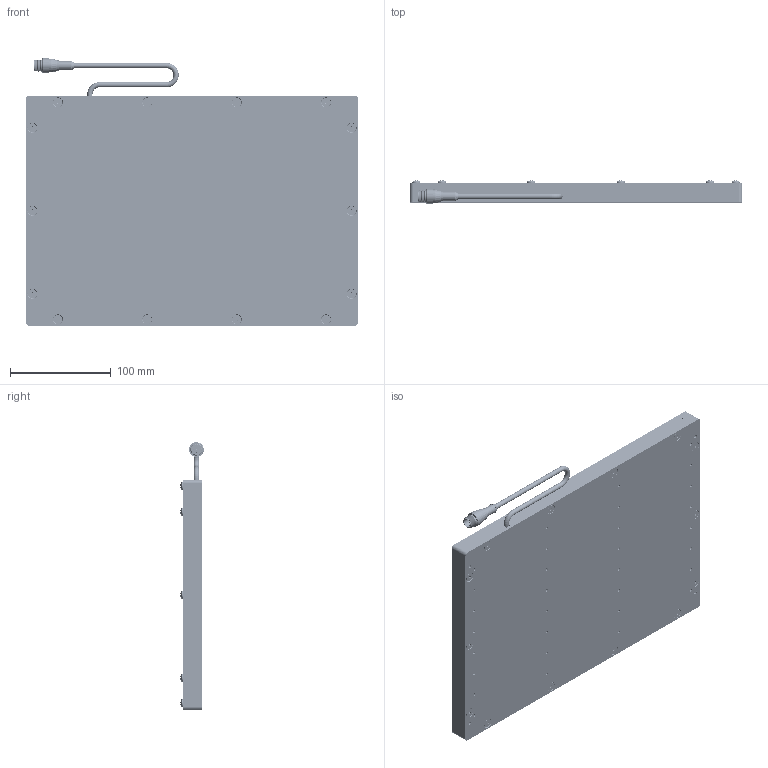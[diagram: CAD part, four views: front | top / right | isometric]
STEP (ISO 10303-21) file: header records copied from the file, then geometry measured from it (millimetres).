
FILE_DESCRIPTION (( 'STEP AP214' ), '1' );
FILE_NAME ('SBL812-XXX.STEP', '2026-04-17T19:25:17', ( '' ), ( '' ), 'SwSTEP 2.0', 'SolidWorks 2025', '' );
FILE_SCHEMA (( 'AUTOMOTIVE_DESIGN' ));
Length unit declared in the file: inch
Products named in the file (12): 8-32 x .375 Nylon Screw_.375" 94611A192; M12 Connector 4,5 and 8 pin_RS4.5T; MC Pigtail 24; SC Pigtail Complete 18_5pin; SBL3 to 18in rail_12in No CG; Hex Standoff .375 x 8-32; WD-SBLYYXX_8x12 with holes; SBL3 to 18in rail_12in rail; BackPlate BLYYXX_0812; SBL812-XXX; 8-32 x 0.375 FHCS (92210A192)_92210A192; SBL3 to 18in rail_08in No CG
Assembly tree (51 placements, depth 3):
  SBL812-XXX
    BackPlate BLYYXX_0812
    SBL3 to 18in rail_12in rail
    SBL3 to 18in rail_12in No CG
    SBL3 to 18in rail_08in No CG  x2
    SC Pigtail Complete 18_5pin
      MC Pigtail 24
      M12 Connector 4,5 and 8 pin_RS4.5T
    WD-SBLYYXX_8x12 with holes
    Hex Standoff .375 x 8-32  x14
    8-32 x 0.375 FHCS (92210A192)_92210A192  x14
    8-32 x .375 Nylon Screw_.375" 94611A192  x14
Bounding box: 330.2 x 23.38 x 266.13 mm (x, y, z)
Volume: 645010.2 mm3; surface area: 392939.2 mm2
Topology: 50 solids, 50 shells, 1602 faces, 3994 edges, 2549 vertices
Faces by surface type: plane 599, bspline 378, cylinder 336, cone 243, torus 27, sphere 19
Full cylindrical faces by diameter (mm): 0.762 x5, 2.705 x32, 3.454 x18, 4.496 x42, 5.207 x3, 6.604 x8, 6.858 x14, 8.128 x14, 8.382 x1, 8.636 x1, 9.119 x14, 10.16 x1, 10.541 x1, 11.938 x1, 13.716 x2, 14.732 x1
Entity records: 19459 total; most frequent: CARTESIAN_POINT 6196, DIRECTION 2467, ORIENTED_EDGE 2072, EDGE_CURVE 1036, AXIS2_PLACEMENT_3D 1015, EDGE_LOOP 827, VERTEX_POINT 773, FACE_OUTER_BOUND 597
